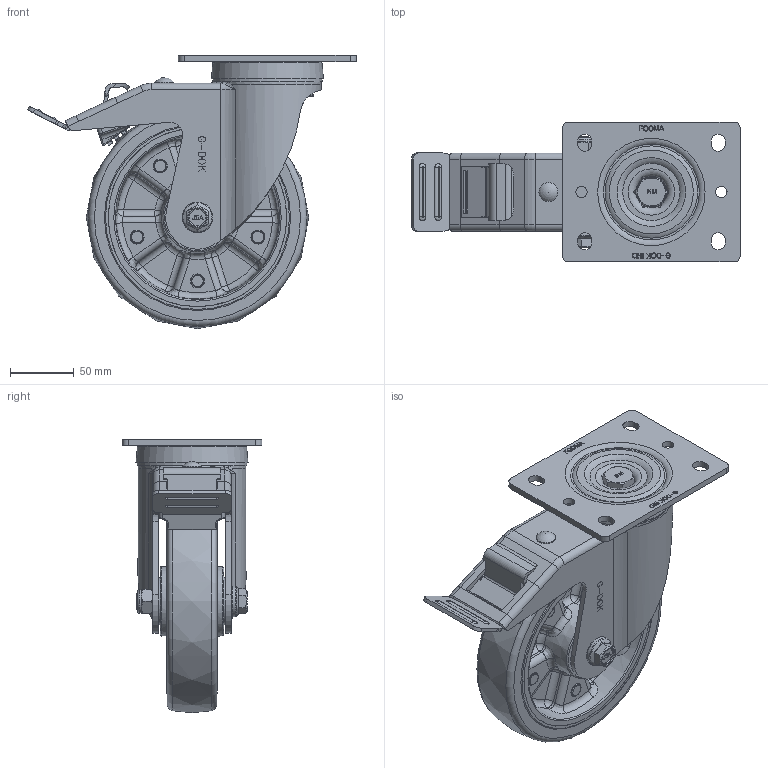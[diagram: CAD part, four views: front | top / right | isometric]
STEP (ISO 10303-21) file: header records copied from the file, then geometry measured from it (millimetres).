
FILE_DESCRIPTION(/* description */ (''),/* implementation_level */ '2;1');
FILE_NAME(/* name */ '\\192.168.10.38\지덕공유\1.기술연구소\2.연구개발 진행중\28.PLM-SERIES_MEDIUM\제품설계\홈페이지용 도면\PLM-175-BSF-MUD-PEU.stp',/* time_stamp */ '2022-03-04T18:32:44+09:00',/* author */ ('admin'),/* organization */ (''),/* preprocessor_version */ 'ST-DEVELOPER v18.1',/* originating_system */ 'Autodesk Inventor 2021',/* authorisation */ '');
FILE_SCHEMA (('AUTOMOTIVE_DESIGN { 1 0 10303 214 3 1 1 }'));
Length unit declared in the file: millimetre
Products named in the file (1): PLM-175-BSF-MUD-PEU
Bounding box: 258.62 x 110 x 214.99 mm (x, y, z)
Volume: 961380.1 mm3; surface area: 223150.5 mm2
Topology: 3 solids, 3 shells, 1931 faces, 5108 edges, 3236 vertices
Faces by surface type: plane 953, cylinder 419, bspline 327, torus 109, sphere 67, cone 56
Full cylindrical faces by diameter (mm): 0.136 x1, 3 x1, 3.2 x3, 6 x2, 9 x3, 12 x1, 14 x1, 15 x1, 16 x1, 18.5 x1, 24 x1, 37 x2, 64.8 x1, 72.8 x1, 85.857 x1
Entity records: 70559 total; most frequent: CARTESIAN_POINT 24288, ORIENTED_EDGE 10170, DIRECTION 8944, EDGE_CURVE 5085, VERTEX_POINT 3236, AXIS2_PLACEMENT_3D 3062, LINE 2820, VECTOR 2820
